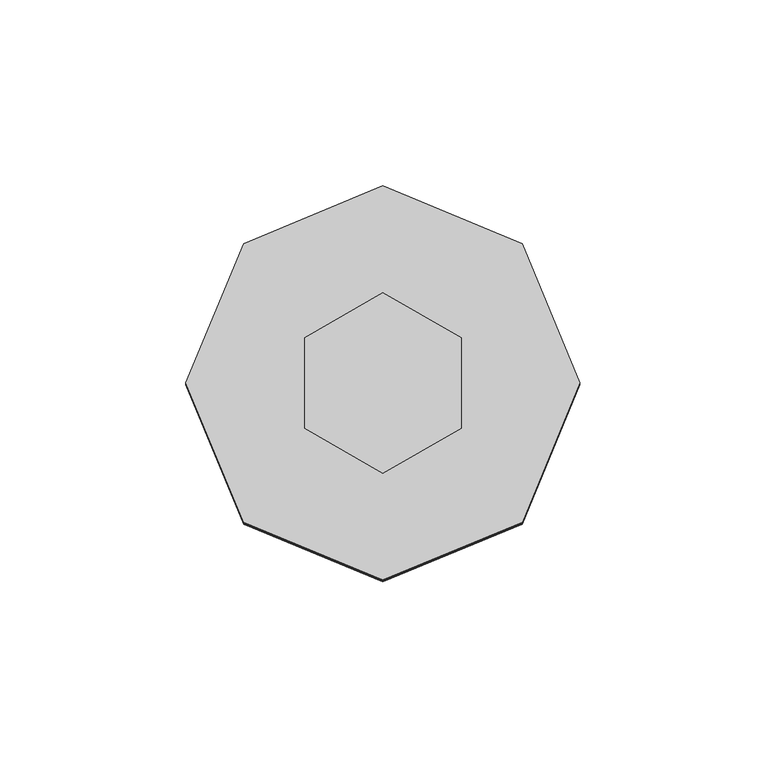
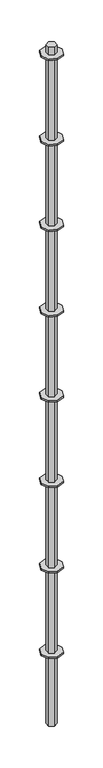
"""IFC4 building model written with IfcOpenShell, lengths in millimetres: proxy geometry, AK_アルバトロスＡＫ支柱L=3600_軽 : AK_アルバトロスＡＫ支柱L=3600."""

from ifc_helpers import new_model, si_unit, frame, origin, origin_with_axes, place, context, project, spatial, polyline, outline, extrude, source, transform, mapped, element, save


def generic_models_9ae7badf(model_context):
    return source(origin(), model_context, "Body", "SweptSolid", [
        extrude(outline(polyline([(-37.4766594, -37.4766594), (-53.0, 0.0), (-37.4766594, 37.4766594), (0.0, 53.0), (37.4766594, 37.4766594), (53.0, 0.0), (37.4766594, -37.4766594), (0.0, -53.0), (-37.4766594, -37.4766594)])), frame((0.0, 0.0, 3526.0), z_axis=(0.0, 0.0, 1.0), x_axis=(1.0, 0.0, 0.0)), (0.0, 0.0, 1.0), 8.0),
        extrude(outline(polyline([(-37.4766594, -37.4766594), (-53.0, 0.0), (-37.4766594, 37.4766594), (0.0, 53.0), (37.4766594, 37.4766594), (53.0, 0.0), (37.4766594, -37.4766594), (0.0, -53.0), (-37.4766594, -37.4766594)])), frame((0.0, 0.0, 3076.0), z_axis=(0.0, 0.0, 1.0), x_axis=(1.0, 0.0, 0.0)), (0.0, 0.0, 1.0), 8.0),
        extrude(outline(polyline([(-37.4766594, -37.4766594), (-53.0, 0.0), (-37.4766594, 37.4766594), (0.0, 53.0), (37.4766594, 37.4766594), (53.0, 0.0), (37.4766594, -37.4766594), (0.0, -53.0), (-37.4766594, -37.4766594)])), frame((0.0, 0.0, 2626.0), z_axis=(0.0, 0.0, 1.0), x_axis=(1.0, 0.0, 0.0)), (0.0, 0.0, 1.0), 8.0),
        extrude(outline(polyline([(-37.4766594, -37.4766594), (-53.0, 0.0), (-37.4766594, 37.4766594), (0.0, 53.0), (37.4766594, 37.4766594), (53.0, 0.0), (37.4766594, -37.4766594), (0.0, -53.0), (-37.4766594, -37.4766594)])), frame((0.0, 0.0, 2176.0), z_axis=(0.0, 0.0, 1.0), x_axis=(1.0, 0.0, 0.0)), (0.0, 0.0, 1.0), 8.0),
        extrude(outline(polyline([(-37.4766594, -37.4766594), (-53.0, 0.0), (-37.4766594, 37.4766594), (0.0, 53.0), (37.4766594, 37.4766594), (53.0, 0.0), (37.4766594, -37.4766594), (0.0, -53.0), (-37.4766594, -37.4766594)])), frame((0.0, 0.0, 1726.0), z_axis=(0.0, 0.0, 1.0), x_axis=(1.0, 0.0, 0.0)), (0.0, 0.0, 1.0), 8.0),
        extrude(outline(polyline([(-37.4766594, -37.4766594), (-53.0, 0.0), (-37.4766594, 37.4766594), (0.0, 53.0), (37.4766594, 37.4766594), (53.0, 0.0), (37.4766594, -37.4766594), (0.0, -53.0), (-37.4766594, -37.4766594)])), frame((0.0, 0.0, 1276.0), z_axis=(0.0, 0.0, 1.0), x_axis=(1.0, 0.0, 0.0)), (0.0, 0.0, 1.0), 8.0),
        extrude(outline(polyline([(-37.4766594, -37.4766594), (-53.0, 0.0), (-37.4766594, 37.4766594), (0.0, 53.0), (37.4766594, 37.4766594), (53.0, 0.0), (37.4766594, -37.4766594), (0.0, -53.0), (-37.4766594, -37.4766594)])), frame((0.0, 0.0, 826.0), z_axis=(0.0, 0.0, 1.0), x_axis=(1.0, 0.0, 0.0)), (0.0, 0.0, 1.0), 8.0),
        extrude(outline(polyline([(-37.4766594, -37.4766594), (-53.0, 0.0), (-37.4766594, 37.4766594), (0.0, 53.0), (37.4766594, 37.4766594), (53.0, 0.0), (37.4766594, -37.4766594), (0.0, -53.0), (-37.4766594, -37.4766594)])), frame((0.0, 0.0, 376.0), z_axis=(0.0, 0.0, 1.0), x_axis=(1.0, 0.0, 0.0)), (0.0, 0.0, 1.0), 8.0),
        extrude(outline(polyline([(-21.0444173, -12.15), (-21.0444173, 12.15), (0.0, 24.3), (21.0444173, 12.15), (21.0444173, -12.15), (0.0, -24.3), (-21.0444173, -12.15)])), origin_with_axes(), (0.0, 0.0, 1.0), 3575.0),
    ])


if __name__ == "__main__":
    model = new_model("IFC4")
    model_context = context("Model", 3, world=origin())
    ifc_project = project(units=[si_unit("LENGTHUNIT", "METRE", prefix="MILLI")], contexts=[model_context])
    site = spatial("IfcSite", under=ifc_project)
    building = spatial("IfcBuilding", under=site)
    placement = place(None, origin())
    generic_models_shape = generic_models_9ae7badf(model_context)
    element("IfcBuildingElementProxy", 1, Name="AK_アルバトロスＡＫ支柱L=3600_軽 : AK_アルバトロスＡＫ支柱L=3600", ObjectType="AK_アルバトロスＡＫ支柱L=3600_軽 : AK_アルバトロスＡＫ支柱L=3600", at=placement, inside=building, context=model_context, shape_type="MappedRepresentation", body=[
        mapped(generic_models_shape, transform((0.0, 0.0, 0.0), x_axis=(1.0, 0.0, 0.0), y_axis=(0.0, 1.0, 0.0), z_axis=(0.0, 0.0, 1.0))),
    ])
    save(model, "model.ifc")
